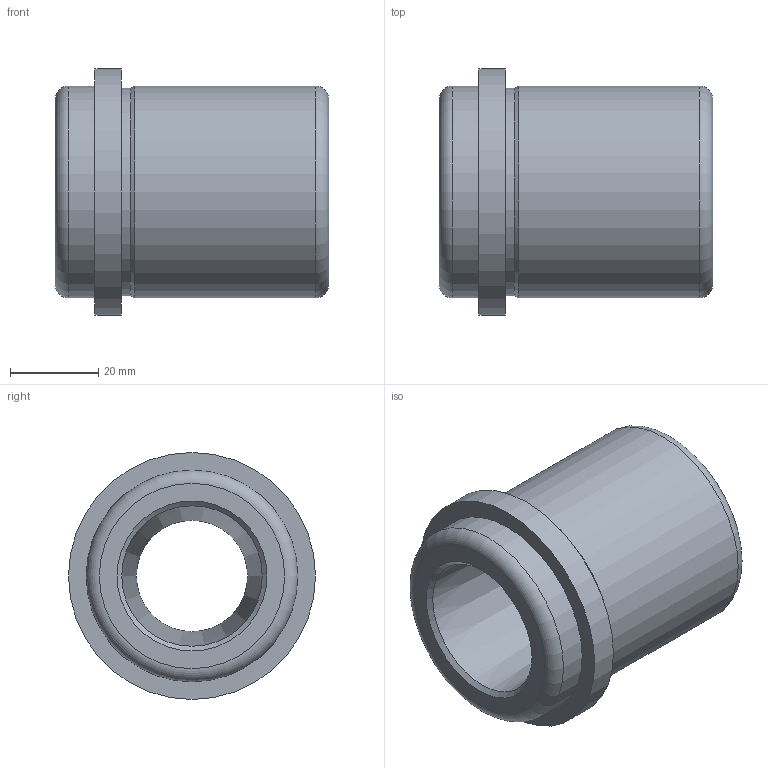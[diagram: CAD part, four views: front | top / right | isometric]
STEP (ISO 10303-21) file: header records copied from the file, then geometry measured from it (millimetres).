
FILE_DESCRIPTION(/* description */ ('Impex Ready, www.impex-ready.pl'),/* implementation_level */ '2;1');
FILE_NAME(/* name */ 'C:\Users\VIKKY\Nextcloud\SM\projekt 10 - części na stronę internetową\Pliki_3D_new\271 Tuleja BEAC\271_BEAC_STEP\BEAC3247.ipt.step',/* time_stamp */ '2021-12-06T15:30:22+03:00',/* author */ ('SM'),/* organization */ (''),/* preprocessor_version */ 'ST-DEVELOPER v18.1',/* originating_system */ 'Autodesk Inventor 2021',/* authorisation */ '');
FILE_SCHEMA (('AUTOMOTIVE_DESIGN { 1 0 10303 214 3 1 1 }'));
Length unit declared in the file: millimetre
Products named in the file (1): BEAC3247
Bounding box: 62 x 56 x 56 mm (x, y, z)
Volume: 72596 mm3; surface area: 18462.8 mm2
Topology: 1 solids, 1 shells, 17 faces, 31 edges, 19 vertices
Faces by surface type: cylinder 5, plane 5, cone 5, torus 2
Full cylindrical faces by diameter (mm): 33 x1, 47 x1, 48 x2, 56 x1
Entity records: 506 total; most frequent: DIRECTION 88, CARTESIAN_POINT 68, ORIENTED_EDGE 62, AXIS2_PLACEMENT_3D 39, EDGE_CURVE 31, EDGE_LOOP 22, CIRCLE 21, VERTEX_POINT 19
